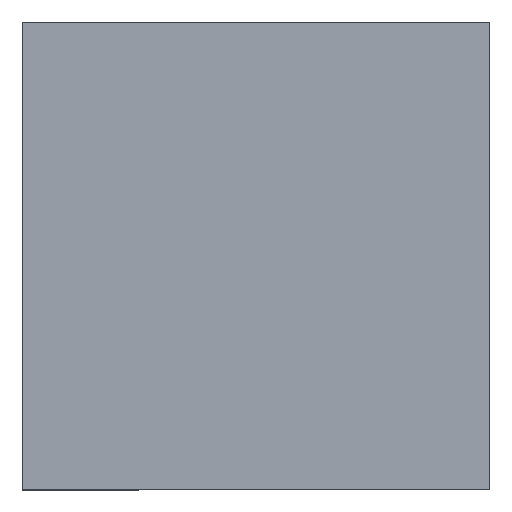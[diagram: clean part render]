
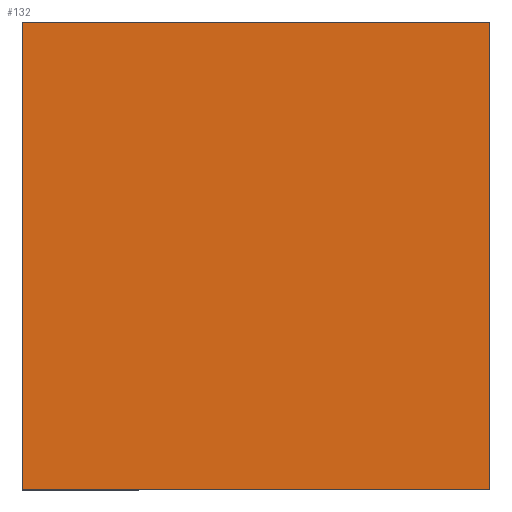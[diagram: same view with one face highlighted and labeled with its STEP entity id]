
A CAD part, top view. The second image highlights one B-rep face of the part: STEP entity #132.
In plain terms, the highlighted planar face has unit normal (0, 0, 1).
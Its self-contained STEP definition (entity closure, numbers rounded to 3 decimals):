
#1 = PLANE ( 'NONE',  #15 ) ;
#10 = EDGE_LOOP ( 'NONE', ( #184, #80, #95, #216 ) ) ;
#15 = AXIS2_PLACEMENT_3D ( 'NONE', #131, #98, #44 ) ;
#16 = DIRECTION ( 'NONE',  ( -1., 0., 0. ) ) ;
#18 = EDGE_CURVE ( 'NONE', #202, #219, #70, .T. ) ;
#30 = CARTESIAN_POINT ( 'NONE',  ( 203.2, 203.2, 2.25 ) ) ;
#41 = CARTESIAN_POINT ( 'NONE',  ( 203.2, 203.2, 2.25 ) ) ;
#44 = DIRECTION ( 'NONE',  ( -1., 0., 0. ) ) ;
#53 = CARTESIAN_POINT ( 'NONE',  ( 203.2, -203.2, 2.25 ) ) ;
#62 = DIRECTION ( 'NONE',  ( 0., -1., 0. ) ) ;
#66 = DIRECTION ( 'NONE',  ( 1., 0., 0. ) ) ;
#70 = LINE ( 'NONE', #141, #82 ) ;
#76 = EDGE_CURVE ( 'NONE', #86, #138, #137, .T. ) ;
#80 = ORIENTED_EDGE ( 'NONE', *, *, #76, .T. ) ;
#82 = VECTOR ( 'NONE', #16, 1000. ) ;
#86 = VERTEX_POINT ( 'NONE', #189 ) ;
#95 = ORIENTED_EDGE ( 'NONE', *, *, #115, .T. ) ;
#98 = DIRECTION ( 'NONE',  ( 0., 0., -1. ) ) ;
#115 = EDGE_CURVE ( 'NONE', #138, #202, #187, .T. ) ;
#117 = VECTOR ( 'NONE', #168, 1000. ) ;
#126 = EDGE_CURVE ( 'NONE', #219, #86, #160, .T. ) ;
#131 = CARTESIAN_POINT ( 'NONE',  ( 0., 0., 2.25 ) ) ;
#132 = ADVANCED_FACE ( 'NONE', ( #133 ), #1, .F. ) ;
#133 = FACE_OUTER_BOUND ( 'NONE', #10, .T. ) ;
#137 = LINE ( 'NONE', #53, #210 ) ;
#138 = VERTEX_POINT ( 'NONE', #163 ) ;
#141 = CARTESIAN_POINT ( 'NONE',  ( 203.2, 203.2, 2.25 ) ) ;
#150 = VECTOR ( 'NONE', #62, 1000. ) ;
#160 = LINE ( 'NONE', #196, #150 ) ;
#163 = CARTESIAN_POINT ( 'NONE',  ( 203.2, -203.2, 2.25 ) ) ;
#165 = CARTESIAN_POINT ( 'NONE',  ( -203.2, 203.2, 2.25 ) ) ;
#168 = DIRECTION ( 'NONE',  ( 0., 1., 0. ) ) ;
#184 = ORIENTED_EDGE ( 'NONE', *, *, #126, .T. ) ;
#187 = LINE ( 'NONE', #30, #117 ) ;
#189 = CARTESIAN_POINT ( 'NONE',  ( -203.2, -203.2, 2.25 ) ) ;
#196 = CARTESIAN_POINT ( 'NONE',  ( -203.2, 203.2, 2.25 ) ) ;
#202 = VERTEX_POINT ( 'NONE', #41 ) ;
#210 = VECTOR ( 'NONE', #66, 1000. ) ;
#216 = ORIENTED_EDGE ( 'NONE', *, *, #18, .T. ) ;
#219 = VERTEX_POINT ( 'NONE', #165 ) ;
